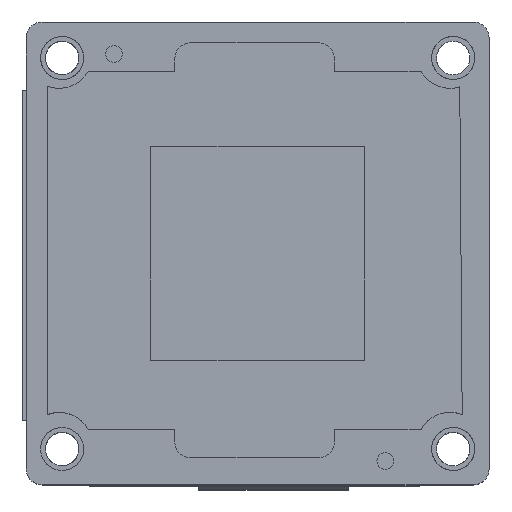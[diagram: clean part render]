
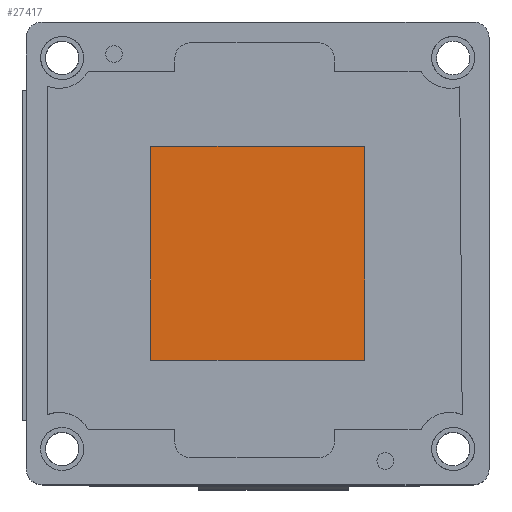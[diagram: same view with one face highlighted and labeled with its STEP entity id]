
A CAD part, top view. The second image highlights one B-rep face of the part: STEP entity #27417.
In plain terms, the highlighted planar face has unit normal (0, 0, 1).
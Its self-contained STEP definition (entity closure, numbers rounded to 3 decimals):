
#405 = CARTESIAN_POINT ( 'NONE',  ( 14.396, 11.278, -4.506 ) ) ;
#1017 = CARTESIAN_POINT ( 'NONE',  ( 0.996, -2.122, -4.506 ) ) ;
#5759 = FACE_OUTER_BOUND ( 'NONE', #17856, .T. ) ;
#5920 = LINE ( 'NONE', #7351, #11887 ) ;
#6385 = AXIS2_PLACEMENT_3D ( 'NONE', #16280, #32844, #8548 ) ;
#7351 = CARTESIAN_POINT ( 'NONE',  ( 14.396, -2.122, -4.506 ) ) ;
#7953 = VERTEX_POINT ( 'NONE', #21086 ) ;
#7982 = LINE ( 'NONE', #19557, #13133 ) ;
#8548 = DIRECTION ( 'NONE',  ( -1., 0., 0. ) ) ;
#9107 = VECTOR ( 'NONE', #11573, 1000. ) ;
#10396 = VERTEX_POINT ( 'NONE', #19176 ) ;
#11343 = ORIENTED_EDGE ( 'NONE', *, *, #31709, .T. ) ;
#11573 = DIRECTION ( 'NONE',  ( 0., -1., 0. ) ) ;
#11887 = VECTOR ( 'NONE', #34865, 1000. ) ;
#13133 = VECTOR ( 'NONE', #30552, 1000. ) ;
#13549 = PLANE ( 'NONE',  #6385 ) ;
#13573 = CARTESIAN_POINT ( 'NONE',  ( 0.996, 11.278, -4.506 ) ) ;
#13803 = EDGE_CURVE ( 'NONE', #7953, #26994, #30048, .T. ) ;
#14657 = CARTESIAN_POINT ( 'NONE',  ( 0.996, -2.122, -4.506 ) ) ;
#16280 = CARTESIAN_POINT ( 'NONE',  ( 7.696, 4.578, -4.506 ) ) ;
#17856 = EDGE_LOOP ( 'NONE', ( #29856, #18024, #24979, #11343 ) ) ;
#18024 = ORIENTED_EDGE ( 'NONE', *, *, #25761, .T. ) ;
#19176 = CARTESIAN_POINT ( 'NONE',  ( 14.396, -2.122, -4.506 ) ) ;
#19557 = CARTESIAN_POINT ( 'NONE',  ( 0.996, -2.122, -4.506 ) ) ;
#21086 = CARTESIAN_POINT ( 'NONE',  ( 0.996, 11.278, -4.506 ) ) ;
#24979 = ORIENTED_EDGE ( 'NONE', *, *, #33834, .T. ) ;
#25761 = EDGE_CURVE ( 'NONE', #26994, #10396, #7982, .T. ) ;
#26994 = VERTEX_POINT ( 'NONE', #14657 ) ;
#27417 = ADVANCED_FACE ( 'NONE', ( #5759 ), #13549, .F. ) ;
#28303 = LINE ( 'NONE', #13573, #34677 ) ;
#29856 = ORIENTED_EDGE ( 'NONE', *, *, #13803, .T. ) ;
#30048 = LINE ( 'NONE', #1017, #9107 ) ;
#30552 = DIRECTION ( 'NONE',  ( 1., 0., 0. ) ) ;
#31709 = EDGE_CURVE ( 'NONE', #35405, #7953, #28303, .T. ) ;
#32844 = DIRECTION ( 'NONE',  ( 0., 0., -1. ) ) ;
#33834 = EDGE_CURVE ( 'NONE', #10396, #35405, #5920, .T. ) ;
#34677 = VECTOR ( 'NONE', #35231, 1000. ) ;
#34865 = DIRECTION ( 'NONE',  ( 0., 1., 0. ) ) ;
#35231 = DIRECTION ( 'NONE',  ( -1., 0., 0. ) ) ;
#35405 = VERTEX_POINT ( 'NONE', #405 ) ;
